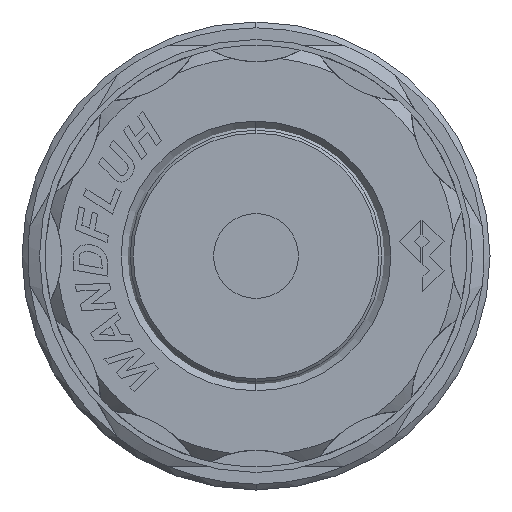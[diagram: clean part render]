
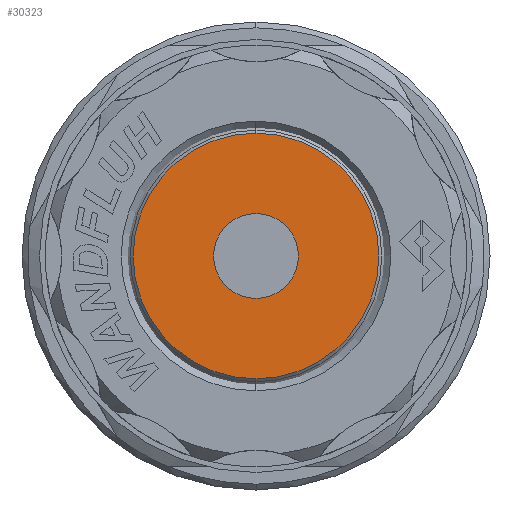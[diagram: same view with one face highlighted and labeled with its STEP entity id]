
A CAD part, left-side view. The second image highlights one B-rep face of the part: STEP entity #30323.
In plain terms, the highlighted planar face has unit normal (-1, 0, 0).
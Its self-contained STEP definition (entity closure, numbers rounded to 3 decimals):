
#372 = EDGE_LOOP ( 'NONE', ( #2065, #2064 ) ) ;
#451 = EDGE_LOOP ( 'NONE', ( #2067, #2066 ) ) ;
#651 = VERTEX_POINT ( 'NONE', #3432 ) ;
#1014 = VERTEX_POINT ( 'NONE', #3887 ) ;
#1028 = VERTEX_POINT ( 'NONE', #3913 ) ;
#1033 = VERTEX_POINT ( 'NONE', #4008 ) ;
#2064 = ORIENTED_EDGE ( 'NONE', *, *, #4819, .T. ) ;
#2065 = ORIENTED_EDGE ( 'NONE', *, *, #4185, .T. ) ;
#2066 = ORIENTED_EDGE ( 'NONE', *, *, #4815, .T. ) ;
#2067 = ORIENTED_EDGE ( 'NONE', *, *, #4227, .T. ) ;
#2973 = CIRCLE ( 'NONE', #32572, 3.625 ) ;
#3110 = CIRCLE ( 'NONE', #32535, 10.5 ) ;
#3432 = CARTESIAN_POINT ( 'NONE',  ( -70.2, 0., -10.5 ) ) ;
#3887 = CARTESIAN_POINT ( 'NONE',  ( -70.2, 0., 3.625 ) ) ;
#3913 = CARTESIAN_POINT ( 'NONE',  ( -70.2, 0., -3.625 ) ) ;
#4008 = CARTESIAN_POINT ( 'NONE',  ( -70.2, 0., 10.5 ) ) ;
#4185 = EDGE_CURVE ( 'NONE', #651, #1033, #3110, .T. ) ;
#4227 = EDGE_CURVE ( 'NONE', #1028, #1014, #2973, .T. ) ;
#4815 = EDGE_CURVE ( 'NONE', #1014, #1028, #6894, .T. ) ;
#4819 = EDGE_CURVE ( 'NONE', #1033, #651, #6900, .T. ) ;
#6894 = CIRCLE ( 'NONE', #32975, 3.625 ) ;
#6900 = CIRCLE ( 'NONE', #32983, 10.5 ) ;
#10031 = PLANE ( 'NONE',  #12554 ) ;
#10045 = CARTESIAN_POINT ( 'NONE',  ( -70.2, 0., 0. ) ) ;
#10047 = DIRECTION ( 'NONE',  ( 1., 0., 0. ) ) ;
#10049 = DIRECTION ( 'NONE',  ( 0., 0., -1. ) ) ;
#12554 = AXIS2_PLACEMENT_3D ( 'NONE', #10045, #10047, #10049 ) ;
#28193 = CARTESIAN_POINT ( 'NONE',  ( -70.2, 0., 0. ) ) ;
#28195 = DIRECTION ( 'NONE',  ( 1., 0., 0. ) ) ;
#28197 = DIRECTION ( 'NONE',  ( 0., 0., -1. ) ) ;
#28217 = CARTESIAN_POINT ( 'NONE',  ( -70.2, 0., 0. ) ) ;
#28219 = DIRECTION ( 'NONE',  ( -1., 0., 0. ) ) ;
#28221 = DIRECTION ( 'NONE',  ( 0., 0., -1. ) ) ;
#30323 = ADVANCED_FACE ( 'NONE', ( #30992, #30996 ), #10031, .F. ) ;
#30992 = FACE_BOUND ( 'NONE', #451, .T. ) ;
#30996 = FACE_OUTER_BOUND ( 'NONE', #372, .T. ) ;
#32535 = AXIS2_PLACEMENT_3D ( 'NONE', #32867, #32869, #32871 ) ;
#32572 = AXIS2_PLACEMENT_3D ( 'NONE', #33103, #33104, #33106 ) ;
#32867 = CARTESIAN_POINT ( 'NONE',  ( -70.2, 0., 0. ) ) ;
#32869 = DIRECTION ( 'NONE',  ( -1., 0., 0. ) ) ;
#32871 = DIRECTION ( 'NONE',  ( 0., 0., -1. ) ) ;
#32975 = AXIS2_PLACEMENT_3D ( 'NONE', #28193, #28195, #28197 ) ;
#32983 = AXIS2_PLACEMENT_3D ( 'NONE', #28217, #28219, #28221 ) ;
#33103 = CARTESIAN_POINT ( 'NONE',  ( -70.2, 0., 0. ) ) ;
#33104 = DIRECTION ( 'NONE',  ( 1., 0., 0. ) ) ;
#33106 = DIRECTION ( 'NONE',  ( 0., 0., -1. ) ) ;
